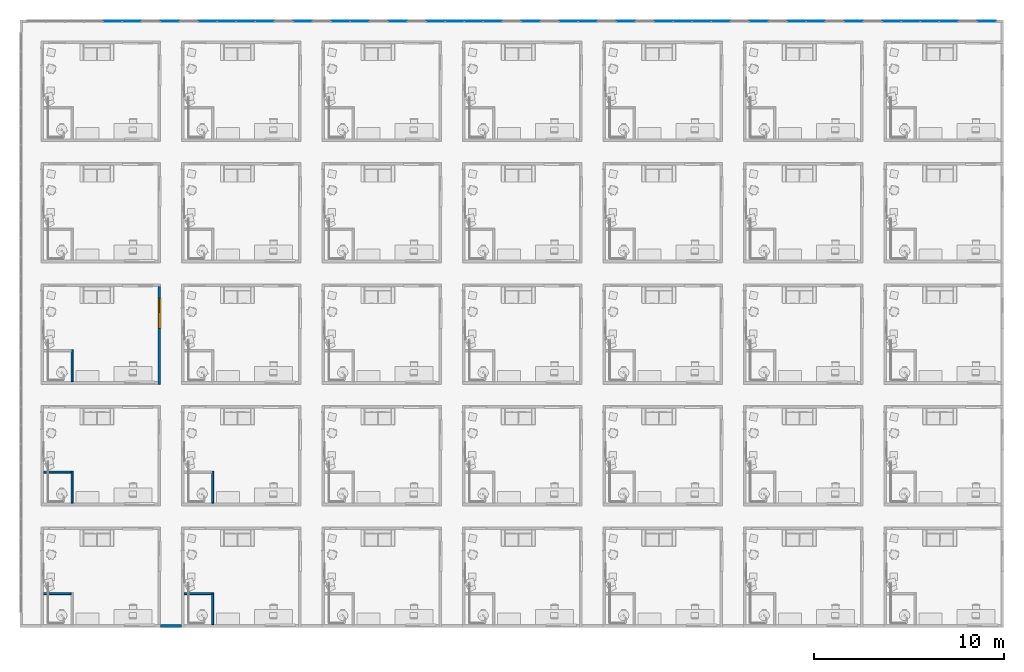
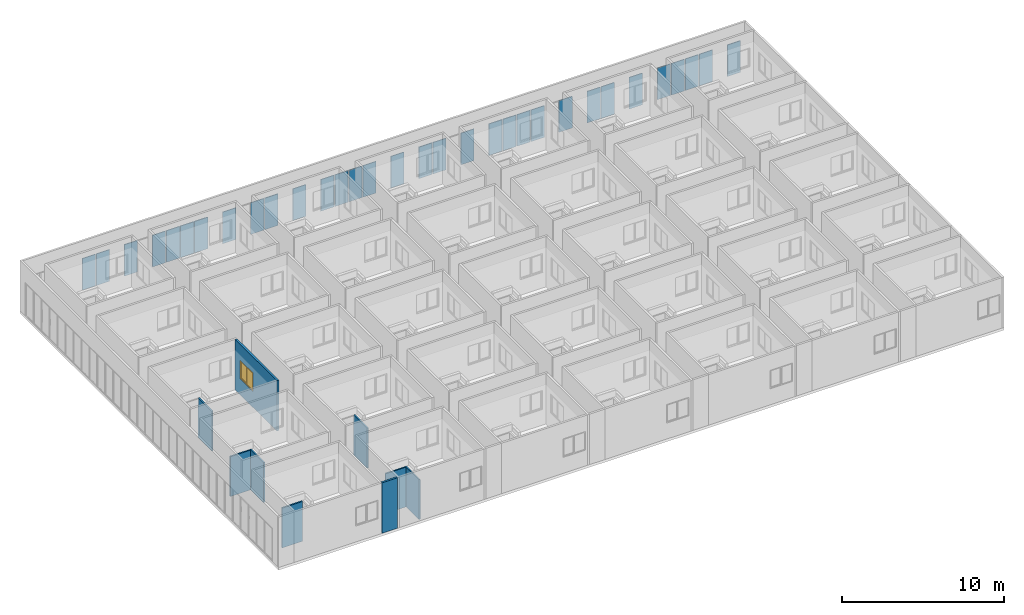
# One storey, part 6 of 72: 32 plates, 9 walls, 1 window, 1 opening, 1 element without a shape of its own.
"""IFC4 building model written with IfcOpenShell, lengths in centimetres."""

from ifc_helpers import new_model, entity, si_unit, converted_unit, derived_unit, direction, frame, origin, place, context, subcontext, project, spatial, indexed_curve, outline, extrude, polygons, source, transform, mapped, material, constituent, constituent_set, type_object, type_shapes, element, fill, aggregate, save


model = new_model("IFC4")

# Units and contexts
model_context = context("Model", 3, precision=0.001, world=origin(), true_north=direction((6.123233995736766e-17, 1.0)))
body_context = subcontext(model_context, "Body", "Model", "MODEL_VIEW")
ifc_project = project(units=[si_unit("LENGTHUNIT", "METRE", prefix="CENTI"), si_unit("AREAUNIT", "SQUARE_METRE"), si_unit("VOLUMEUNIT", "CUBIC_METRE"), derived_unit("THERMALTRANSMITTANCEUNIT", [(si_unit("MASSUNIT", "GRAM", prefix="KILO"), 1), (si_unit("THERMODYNAMICTEMPERATUREUNIT", "KELVIN"), -1), (si_unit("TIMEUNIT", "SECOND"), -3)]), converted_unit("PLANEANGLEUNIT", "DEGREE", entity("IfcPlaneAngleMeasure", 0.017453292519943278), si_unit("PLANEANGLEUNIT", "RADIAN"), dimensions=[0, 0, 0, 0, 0, 0, 0]), derived_unit("MASSDENSITYUNIT", [(si_unit("MASSUNIT", "GRAM", prefix="KILO"), 1), (si_unit("LENGTHUNIT", "METRE"), -3)]), derived_unit("VAPORPERMEABILITYUNIT", [(si_unit("LENGTHUNIT", "METRE"), -1), (si_unit("TIMEUNIT", "SECOND"), 1)]), derived_unit("USERDEFINED", [(si_unit("MASSUNIT", "GRAM", prefix="KILO"), 1), (si_unit("TIMEUNIT", "SECOND"), -3), (si_unit("LENGTHUNIT", "METRE"), 3), (si_unit("ELECTRICCURRENTUNIT", "AMPERE"), -2)]), derived_unit("SPECIFICHEATCAPACITYUNIT", [(si_unit("THERMODYNAMICTEMPERATUREUNIT", "KELVIN"), -1), (si_unit("LENGTHUNIT", "METRE"), 2), (si_unit("TIMEUNIT", "SECOND"), -2)]), derived_unit("THERMALCONDUCTANCEUNIT", [(si_unit("MASSUNIT", "GRAM", prefix="KILO"), 1), (si_unit("THERMODYNAMICTEMPERATUREUNIT", "KELVIN"), -1), (si_unit("TIMEUNIT", "SECOND"), -3), (si_unit("LENGTHUNIT", "METRE"), 1)]), si_unit("PRESSUREUNIT", "PASCAL"), derived_unit("MODULUSOFELASTICITYUNIT", [(si_unit("MASSUNIT", "GRAM", prefix="KILO"), 1), (si_unit("LENGTHUNIT", "METRE"), -1), (si_unit("TIMEUNIT", "SECOND"), -2)]), derived_unit("THERMALEXPANSIONCOEFFICIENTUNIT", [(si_unit("THERMODYNAMICTEMPERATUREUNIT", "KELVIN"), -1)])], contexts=[model_context])

# Site, building, storey
site_placement = place(None, origin())
site = spatial("IfcSite", under=ifc_project, at=site_placement, Name="Default", CompositionType="ELEMENT")
building_placement = place(site_placement, origin())
building = spatial("IfcBuilding", under=site, at=building_placement, Name="IDS Escape Game Building", CompositionType="ELEMENT")
storey_placement = place(building_placement, frame((0.0, 0.0, 800.0)))
storey = spatial("IfcBuildingStorey", under=building, at=storey_placement, Name="02_Second Floor", CompositionType="ELEMENT", Elevation=800.0)

# Curtain wall, plates
curtain_wall_type = type_object("IfcCurtainWallType", Name="Curtain Wall:ARC_31.3_CWA_LIB_bandraam vast 100cm - profiel 60x60_gen_BERSnl", PredefinedType="NOTDEFINED")
curtain_wall_placement = place(storey_placement, frame((0.0, 0.0, -800.0)))
curtain_wall = element("IfcCurtainWall", 1, at=curtain_wall_placement, inside=storey, type_object=curtain_wall_type, Name="Curtain Wall:ARC_31.3_CWA_LIB_bandraam vast 100cm - profiel 60x60_gen_BERSnl", ObjectType="Curtain Wall:ARC_31.3_CWA_LIB_bandraam vast 100cm - profiel 60x60_gen_BERSnl", PredefinedType="NOTDEFINED")
ifc_material_1 = material(Name="ARC_FME.o1_glass_00_gen_BERSnl", Category="o - glas")
plate_type = type_object("IfcPlateType", Name="System Panel:Glazed", PredefinedType="CURTAIN_PANEL", material=ifc_material_1)
shared_shape_1 = source(origin(), body_context, "Body", "SweptSolid", [
    extrude(outline(indexed_curve([(-2.5, -46.92156864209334), (2.5, -46.92156864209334), (2.5, 46.92156864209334), (-2.5, 46.92156864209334), (-2.5, -46.92156864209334)], self_intersect=False)), frame((0.0, 0.0, 0.0), z_axis=(0.0, 0.0, 1.0), x_axis=(0.0, 1.0, 0.0)), (0.0, 0.0, 1.0), 238.00000000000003),
])
type_shapes(plate_type, [shared_shape_1])
plate_1_placement = place(curtain_wall_placement, frame((369.2941176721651, 3182.0, 806.0)))
plate_1 = element("IfcPlate", 2, at=plate_1_placement, type_object=plate_type, material=ifc_material_1, Name="System Panel:Glazed", ObjectType="System Panel:Glazed", PredefinedType="CURTAIN_PANEL", context=body_context, shape_type="MappedRepresentation", body=[
    mapped(shared_shape_1, transform((0.0, 0.0, 0.0), scale=1.0)),
])
plate_2_placement = place(curtain_wall_placement, frame((469.1372549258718, 3182.0, 806.0)))
plate_2 = element("IfcPlate", 3, at=plate_2_placement, type_object=plate_type, material=ifc_material_1, Name="System Panel:Glazed", ObjectType="System Panel:Glazed", PredefinedType="CURTAIN_PANEL", context=body_context, shape_type="MappedRepresentation", body=[
    mapped(shared_shape_1, transform((0.0, 0.0, 0.0), scale=1.0)),
])
plate_3_placement = place(curtain_wall_placement, frame((668.823529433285, 3182.0, 806.0)))
plate_3 = element("IfcPlate", 4, at=plate_3_placement, type_object=plate_type, material=ifc_material_1, Name="System Panel:Glazed", ObjectType="System Panel:Glazed", PredefinedType="CURTAIN_PANEL", context=body_context, shape_type="MappedRepresentation", body=[
    mapped(shared_shape_1, transform((0.0, 0.0, 0.0), scale=1.0)),
])
plate_4_placement = place(curtain_wall_placement, frame((868.5098039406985, 3182.0, 806.0)))
plate_4 = element("IfcPlate", 5, at=plate_4_placement, type_object=plate_type, material=ifc_material_1, Name="System Panel:Glazed", ObjectType="System Panel:Glazed", PredefinedType="CURTAIN_PANEL", context=body_context, shape_type="MappedRepresentation", body=[
    mapped(shared_shape_1, transform((0.0, 0.0, 0.0), scale=1.0)),
])
plate_5_placement = place(curtain_wall_placement, frame((968.3529411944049, 3182.0, 806.0)))
plate_5 = element("IfcPlate", 6, at=plate_5_placement, type_object=plate_type, material=ifc_material_1, Name="System Panel:Glazed", ObjectType="System Panel:Glazed", PredefinedType="CURTAIN_PANEL", context=body_context, shape_type="MappedRepresentation", body=[
    mapped(shared_shape_1, transform((0.0, 0.0, 0.0), scale=1.0)),
])
plate_6_placement = place(curtain_wall_placement, frame((1068.1960784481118, 3182.0, 806.0)))
plate_6 = element("IfcPlate", 7, at=plate_6_placement, type_object=plate_type, material=ifc_material_1, Name="System Panel:Glazed", ObjectType="System Panel:Glazed", PredefinedType="CURTAIN_PANEL", context=body_context, shape_type="MappedRepresentation", body=[
    mapped(shared_shape_1, transform((0.0, 0.0, 0.0), scale=1.0)),
])
plate_7_placement = place(curtain_wall_placement, frame((1168.0392157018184, 3182.0, 806.0)))
plate_7 = element("IfcPlate", 8, at=plate_7_placement, type_object=plate_type, material=ifc_material_1, Name="System Panel:Glazed", ObjectType="System Panel:Glazed", PredefinedType="CURTAIN_PANEL", context=body_context, shape_type="MappedRepresentation", body=[
    mapped(shared_shape_1, transform((0.0, 0.0, 0.0), scale=1.0)),
])
plate_8_placement = place(curtain_wall_placement, frame((1367.725490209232, 3182.0, 806.0)))
plate_8 = element("IfcPlate", 9, at=plate_8_placement, type_object=plate_type, material=ifc_material_1, Name="System Panel:Glazed", ObjectType="System Panel:Glazed", PredefinedType="CURTAIN_PANEL", context=body_context, shape_type="MappedRepresentation", body=[
    mapped(shared_shape_1, transform((0.0, 0.0, 0.0), scale=1.0)),
])
plate_9_placement = place(curtain_wall_placement, frame((1567.4117647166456, 3182.0, 806.0)))
plate_9 = element("IfcPlate", 10, at=plate_9_placement, type_object=plate_type, material=ifc_material_1, Name="System Panel:Glazed", ObjectType="System Panel:Glazed", PredefinedType="CURTAIN_PANEL", context=body_context, shape_type="MappedRepresentation", body=[
    mapped(shared_shape_1, transform((0.0, 0.0, 0.0), scale=1.0)),
])
plate_10_placement = place(curtain_wall_placement, frame((1667.2549019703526, 3182.0, 806.0)))
plate_10 = element("IfcPlate", 11, at=plate_10_placement, type_object=plate_type, material=ifc_material_1, Name="System Panel:Glazed", ObjectType="System Panel:Glazed", PredefinedType="CURTAIN_PANEL", context=body_context, shape_type="MappedRepresentation", body=[
    mapped(shared_shape_1, transform((0.0, 0.0, 0.0), scale=1.0)),
])
plate_11_placement = place(curtain_wall_placement, frame((1866.9411764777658, 3182.0, 806.0)))
plate_11 = element("IfcPlate", 12, at=plate_11_placement, type_object=plate_type, material=ifc_material_1, Name="System Panel:Glazed", ObjectType="System Panel:Glazed", PredefinedType="CURTAIN_PANEL", context=body_context, shape_type="MappedRepresentation", body=[
    mapped(shared_shape_1, transform((0.0, 0.0, 0.0), scale=1.0)),
])
plate_12_placement = place(curtain_wall_placement, frame((2066.627450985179, 3182.0, 806.0)))
plate_12 = element("IfcPlate", 13, at=plate_12_placement, type_object=plate_type, material=ifc_material_1, Name="System Panel:Glazed", ObjectType="System Panel:Glazed", PredefinedType="CURTAIN_PANEL", context=body_context, shape_type="MappedRepresentation", body=[
    mapped(shared_shape_1, transform((0.0, 0.0, 0.0), scale=1.0)),
])
plate_13_placement = place(curtain_wall_placement, frame((2166.4705882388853, 3182.0, 806.0)))
plate_13 = element("IfcPlate", 14, at=plate_13_placement, type_object=plate_type, material=ifc_material_1, Name="System Panel:Glazed", ObjectType="System Panel:Glazed", PredefinedType="CURTAIN_PANEL", context=body_context, shape_type="MappedRepresentation", body=[
    mapped(shared_shape_1, transform((0.0, 0.0, 0.0), scale=1.0)),
])
plate_14_placement = place(curtain_wall_placement, frame((2266.313725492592, 3182.0, 806.0)))
plate_14 = element("IfcPlate", 15, at=plate_14_placement, type_object=plate_type, material=ifc_material_1, Name="System Panel:Glazed", ObjectType="System Panel:Glazed", PredefinedType="CURTAIN_PANEL", context=body_context, shape_type="MappedRepresentation", body=[
    mapped(shared_shape_1, transform((0.0, 0.0, 0.0), scale=1.0)),
])
plate_15_placement = place(curtain_wall_placement, frame((2366.156862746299, 3182.0, 806.0)))
plate_15 = element("IfcPlate", 16, at=plate_15_placement, type_object=plate_type, material=ifc_material_1, Name="System Panel:Glazed", ObjectType="System Panel:Glazed", PredefinedType="CURTAIN_PANEL", context=body_context, shape_type="MappedRepresentation", body=[
    mapped(shared_shape_1, transform((0.0, 0.0, 0.0), scale=1.0)),
])
plate_16_placement = place(curtain_wall_placement, frame((2565.843137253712, 3182.0, 806.0)))
plate_16 = element("IfcPlate", 17, at=plate_16_placement, type_object=plate_type, material=ifc_material_1, Name="System Panel:Glazed", ObjectType="System Panel:Glazed", PredefinedType="CURTAIN_PANEL", context=body_context, shape_type="MappedRepresentation", body=[
    mapped(shared_shape_1, transform((0.0, 0.0, 0.0), scale=1.0)),
])
plate_17_placement = place(curtain_wall_placement, frame((2765.529411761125, 3182.0, 806.0)))
plate_17 = element("IfcPlate", 18, at=plate_17_placement, type_object=plate_type, material=ifc_material_1, Name="System Panel:Glazed", ObjectType="System Panel:Glazed", PredefinedType="CURTAIN_PANEL", context=body_context, shape_type="MappedRepresentation", body=[
    mapped(shared_shape_1, transform((0.0, 0.0, 0.0), scale=1.0)),
])
plate_18_placement = place(curtain_wall_placement, frame((2865.3725490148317, 3182.0, 806.0)))
plate_18 = element("IfcPlate", 19, at=plate_18_placement, type_object=plate_type, material=ifc_material_1, Name="System Panel:Glazed", ObjectType="System Panel:Glazed", PredefinedType="CURTAIN_PANEL", context=body_context, shape_type="MappedRepresentation", body=[
    mapped(shared_shape_1, transform((0.0, 0.0, 0.0), scale=1.0)),
])
plate_19_placement = place(curtain_wall_placement, frame((3065.0588235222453, 3182.0, 806.0)))
plate_19 = element("IfcPlate", 20, at=plate_19_placement, type_object=plate_type, material=ifc_material_1, Name="System Panel:Glazed", ObjectType="System Panel:Glazed", PredefinedType="CURTAIN_PANEL", context=body_context, shape_type="MappedRepresentation", body=[
    mapped(shared_shape_1, transform((0.0, 0.0, 0.0), scale=1.0)),
])
plate_20_placement = place(curtain_wall_placement, frame((3264.745098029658, 3182.0, 806.0)))
plate_20 = element("IfcPlate", 21, at=plate_20_placement, type_object=plate_type, material=ifc_material_1, Name="System Panel:Glazed", ObjectType="System Panel:Glazed", PredefinedType="CURTAIN_PANEL", context=body_context, shape_type="MappedRepresentation", body=[
    mapped(shared_shape_1, transform((0.0, 0.0, 0.0), scale=1.0)),
])
plate_21_placement = place(curtain_wall_placement, frame((3364.588235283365, 3182.0, 806.0)))
plate_21 = element("IfcPlate", 22, at=plate_21_placement, type_object=plate_type, material=ifc_material_1, Name="System Panel:Glazed", ObjectType="System Panel:Glazed", PredefinedType="CURTAIN_PANEL", context=body_context, shape_type="MappedRepresentation", body=[
    mapped(shared_shape_1, transform((0.0, 0.0, 0.0), scale=1.0)),
])
plate_22_placement = place(curtain_wall_placement, frame((3464.431372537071, 3182.0, 806.0)))
plate_22 = element("IfcPlate", 23, at=plate_22_placement, type_object=plate_type, material=ifc_material_1, Name="System Panel:Glazed", ObjectType="System Panel:Glazed", PredefinedType="CURTAIN_PANEL", context=body_context, shape_type="MappedRepresentation", body=[
    mapped(shared_shape_1, transform((0.0, 0.0, 0.0), scale=1.0)),
])
plate_23_placement = place(curtain_wall_placement, frame((3564.2745097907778, 3182.0, 806.0)))
plate_23 = element("IfcPlate", 24, at=plate_23_placement, type_object=plate_type, material=ifc_material_1, Name="System Panel:Glazed", ObjectType="System Panel:Glazed", PredefinedType="CURTAIN_PANEL", context=body_context, shape_type="MappedRepresentation", body=[
    mapped(shared_shape_1, transform((0.0, 0.0, 0.0), scale=1.0)),
])
plate_24_placement = place(curtain_wall_placement, frame((3763.9607842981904, 3182.0, 806.0)))
plate_24 = element("IfcPlate", 25, at=plate_24_placement, type_object=plate_type, material=ifc_material_1, Name="System Panel:Glazed", ObjectType="System Panel:Glazed", PredefinedType="CURTAIN_PANEL", context=body_context, shape_type="MappedRepresentation", body=[
    mapped(shared_shape_1, transform((0.0, 0.0, 0.0), scale=1.0)),
])
plate_25_placement = place(curtain_wall_placement, frame((3963.647058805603, 3182.0, 806.0)))
plate_25 = element("IfcPlate", 26, at=plate_25_placement, type_object=plate_type, material=ifc_material_1, Name="System Panel:Glazed", ObjectType="System Panel:Glazed", PredefinedType="CURTAIN_PANEL", context=body_context, shape_type="MappedRepresentation", body=[
    mapped(shared_shape_1, transform((0.0, 0.0, 0.0), scale=1.0)),
])
plate_26_placement = place(curtain_wall_placement, frame((4063.4901960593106, 3182.0, 806.0)))
plate_26 = element("IfcPlate", 27, at=plate_26_placement, type_object=plate_type, material=ifc_material_1, Name="System Panel:Glazed", ObjectType="System Panel:Glazed", PredefinedType="CURTAIN_PANEL", context=body_context, shape_type="MappedRepresentation", body=[
    mapped(shared_shape_1, transform((0.0, 0.0, 0.0), scale=1.0)),
])
plate_27_placement = place(curtain_wall_placement, frame((4263.176470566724, 3182.0, 806.0)))
plate_27 = element("IfcPlate", 28, at=plate_27_placement, type_object=plate_type, material=ifc_material_1, Name="System Panel:Glazed", ObjectType="System Panel:Glazed", PredefinedType="CURTAIN_PANEL", context=body_context, shape_type="MappedRepresentation", body=[
    mapped(shared_shape_1, transform((0.0, 0.0, 0.0), scale=1.0)),
])
plate_28_placement = place(curtain_wall_placement, frame((4462.862745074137, 3182.0, 806.0)))
plate_28 = element("IfcPlate", 29, at=plate_28_placement, type_object=plate_type, material=ifc_material_1, Name="System Panel:Glazed", ObjectType="System Panel:Glazed", PredefinedType="CURTAIN_PANEL", context=body_context, shape_type="MappedRepresentation", body=[
    mapped(shared_shape_1, transform((0.0, 0.0, 0.0), scale=1.0)),
])
plate_29_placement = place(curtain_wall_placement, frame((4562.705882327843, 3182.0, 806.0)))
plate_29 = element("IfcPlate", 30, at=plate_29_placement, type_object=plate_type, material=ifc_material_1, Name="System Panel:Glazed", ObjectType="System Panel:Glazed", PredefinedType="CURTAIN_PANEL", context=body_context, shape_type="MappedRepresentation", body=[
    mapped(shared_shape_1, transform((0.0, 0.0, 0.0), scale=1.0)),
])
plate_30_placement = place(curtain_wall_placement, frame((4662.54901958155, 3182.0, 806.0)))
plate_30 = element("IfcPlate", 31, at=plate_30_placement, type_object=plate_type, material=ifc_material_1, Name="System Panel:Glazed", ObjectType="System Panel:Glazed", PredefinedType="CURTAIN_PANEL", context=body_context, shape_type="MappedRepresentation", body=[
    mapped(shared_shape_1, transform((0.0, 0.0, 0.0), scale=1.0)),
])
plate_31_placement = place(curtain_wall_placement, frame((4762.392156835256, 3182.0, 806.0)))
plate_31 = element("IfcPlate", 32, at=plate_31_placement, type_object=plate_type, material=ifc_material_1, Name="System Panel:Glazed", ObjectType="System Panel:Glazed", PredefinedType="CURTAIN_PANEL", context=body_context, shape_type="MappedRepresentation", body=[
    mapped(shared_shape_1, transform((0.0, 0.0, 0.0), scale=1.0)),
])
plate_32_placement = place(curtain_wall_placement, frame((4962.078431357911, 3182.0, 806.0)))
plate_32 = element("IfcPlate", 33, at=plate_32_placement, type_object=plate_type, material=ifc_material_1, Name="System Panel:Glazed", ObjectType="System Panel:Glazed", PredefinedType="CURTAIN_PANEL", context=body_context, shape_type="MappedRepresentation", body=[
    mapped(shared_shape_1, transform((0.0, 0.0, 0.0), scale=1.0)),
])
aggregate(curtain_wall, [plate_1, plate_2, plate_3, plate_4, plate_5, plate_6, plate_7, plate_8, plate_9, plate_10, plate_11, plate_12, plate_13, plate_14, plate_15, plate_16, plate_17, plate_18, plate_19, plate_20, plate_21, plate_22, plate_23, plate_24, plate_25, plate_26, plate_27, plate_28, plate_29, plate_30, plate_31, plate_32])

# Wall, opening, window
ifc_material_2 = material(Name="ARC_FME.g2_Fg2 Masonry_00_gen_BERSnl", Category="g - klei")
wall_type_1 = type_object("IfcWallType", Name="Basic Wall:ARC_22.10_WA_LB_SB14_gen_BERSnl", PredefinedType="STANDARD")
wall_1_placement = place(storey_placement, frame((614.0, 1275.0, 0.0), z_axis=(0.0, 0.0, 1.0), x_axis=(0.0, 1.0, 0.0)))
wall_1 = element("IfcWall", 34, at=wall_1_placement, inside=storey, type_object=wall_type_1, material=ifc_material_2, Name="Basic Wall:ARC_22.10_WA_LB_SB14_gen_BERSnl", ObjectType="Basic Wall:ARC_22.10_WA_LB_SB14_gen_BERSnl", PredefinedType="NOTDEFINED", context=body_context, shape_type="Tessellation", body=[
    polygons([(0.0, -6.9999999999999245, -1.0828671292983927e-13), (514.0000000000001, -6.9999999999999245, -1.0828671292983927e-13), (514.0000000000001, -6.9999999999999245, 379.9999999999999), (0.0, -6.9999999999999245, 379.9999999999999), (454.0000000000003, -6.999999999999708, 260.00000000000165), (454.0000000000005, -6.9999999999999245, 119.9999999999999), (294.0000000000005, -7.000000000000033, 119.9999999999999), (294.0000000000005, -6.999999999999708, 260.00000000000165), (454.0000000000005, 7.000000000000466, 119.9999999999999), (454.0000000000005, 7.000000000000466, 260.0000000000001), (294.0000000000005, 7.000000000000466, 260.0000000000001), (294.0000000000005, 7.000000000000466, 119.9999999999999), (0.0, 7.000000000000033, -1.0828671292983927e-13), (0.0, 7.000000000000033, 379.9999999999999), (14.000000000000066, 7.000000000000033, 379.9999999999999), (514.0000000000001, 7.000000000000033, 379.9999999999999), (514.0000000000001, 7.000000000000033, -1.0828671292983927e-13), (14.000000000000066, 7.000000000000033, -1.0828671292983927e-13)], [[[1, 2, 3, 4], [5, 6, 7, 8]], [[13, 14, 15, 16, 17, 18], [9, 10, 11, 12]], [[2, 1, 13, 18, 17]], [[4, 3, 16, 15, 14]], [[10, 9, 6, 5]], [[7, 12, 11, 8]], [[10, 5, 8, 11]], [[12, 7, 6, 9]], [[1, 4, 14, 13]], [[3, 2, 17, 16]]], closed=True),
])
opening_placement = place(wall_1_placement, frame((-1275.0, 614.0, 120.0), z_axis=(0.0, 0.0, 1.0), x_axis=(0.0, -1.0, 0.0)))
opening = element("IfcOpeningElement", 35, at=opening_placement, cuts=wall_1, Name="Basic Wall:ARC_22.10_WA_LB_SB14_gen_BERSnl", PredefinedType="OPENING", context=body_context, shape_type="Tessellation", body=[
    polygons([(607.0, 1729.0000000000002, 0.0), (607.0, 1729.0000000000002, -0.9999999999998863), (602.0, 1729.0000000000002, -0.9999999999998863), (602.0, 1729.0000000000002, 0.0), (606.9999999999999, 1569.0000000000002, 0.0), (601.9999999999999, 1569.0000000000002, 0.0), (601.9999999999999, 1569.0000000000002, -0.9999999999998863), (606.9999999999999, 1569.0000000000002, -0.9999999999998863), (606.9999999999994, 1724.0000000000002, 1.1368683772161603e-13), (606.9999999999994, 1574.0000000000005, 1.1368683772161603e-13), (601.9999999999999, 1574.0000000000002, 0.0), (601.9999999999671, 1574.0000000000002, 134.99999999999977), (601.9999999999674, 1724.0000000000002, 134.99999999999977), (601.9999999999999, 1724.0000000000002, 0.0), (626.0368251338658, 1729.0000000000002, 0.0), (606.9999999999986, 1729.0000000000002, 1.1368683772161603e-13), (606.9999999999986, 1729.0000000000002, 140.0000000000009), (626.0368251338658, 1729.0000000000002, 140.00000000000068), (626.0368251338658, 1569.0000000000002, 140.00000000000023), (606.9999999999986, 1569.0000000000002, 140.00000000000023), (606.9999999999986, 1569.0000000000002, 0.0), (626.0368251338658, 1569.0000000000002, 1.1368683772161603e-13), (606.9999999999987, 1724.0000000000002, 134.99999999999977), (606.9999999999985, 1574.0000000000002, 134.99999999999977)], [[[1, 2, 3, 4]], [[5, 6, 7, 8]], [[1, 9, 10, 5, 8, 2]], [[2, 8, 7, 3]], [[3, 7, 6, 11, 12, 13, 14, 4]], [[4, 14, 9, 1]], [[15, 16, 17, 18]], [[19, 20, 21, 22]], [[18, 17, 20, 19]], [[18, 19, 22, 15]], [[17, 16, 9, 23, 24, 10, 21, 20]], [[22, 21, 10, 9, 16, 15]], [[11, 10, 24, 12]], [[13, 23, 9, 14]], [[12, 24, 23, 13]], [[5, 10, 11, 6]]], closed=True),
])
ifc_material_3 = material(Name="<Unnamed>")
ifc_constituent_1 = constituent(ifc_material_3, Name="<Unnamed>", fraction=0.0)
ifc_constituent_2 = constituent(ifc_material_1, Name="ARC_FME.o1_glass_00_gen_BERSnl", Category="o - glas", fraction=1.0)
ifc_constituent_set_1 = constituent_set(constituents=[ifc_constituent_1, ifc_constituent_2])
ifc_constituent_3 = constituent(ifc_material_3, Name="BE Tablet", fraction=0.0)
ifc_constituent_4 = constituent(ifc_material_3, Name="Frame/Mullion", fraction=0.0)
ifc_constituent_5 = constituent(ifc_material_1, Name="Glass", Category="o - glas", fraction=1.0)
ifc_constituent_set_2 = constituent_set(constituents=[ifc_constituent_3, ifc_constituent_4, ifc_constituent_5])
window_type = type_object("IfcWindowType", Name="ARC_31_WI_WB_Dubbel Raam-Recht-Vast en Draaiend_gen_BERSnl:Links-Draaiend / Rechts-Draaiend", PartitioningType="NOTDEFINED", PredefinedType="WINDOW", material=ifc_constituent_set_2)
shared_shape_2 = source(origin(), body_context, "Body", "Tessellation", [
    extrude(outline(indexed_curve([(-80.00000000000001, -4.999999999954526), (80.00000000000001, -4.999999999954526), (80.00000000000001, 4.999999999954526), (-80.00000000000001, 4.999999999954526), (-80.00000000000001, -4.999999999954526)], self_intersect=False)), frame((80.0, 7.036825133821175, 1.0), z_axis=(0.0, 0.0, 1.0), x_axis=(-1.0, 0.0, 0.0)), (0.0, 0.0, 1.0), 2.000000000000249),
    extrude(outline(indexed_curve([(-2.9999999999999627, -3.000000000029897), (-7.656209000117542e-14, -3.000000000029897), (-7.064016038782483e-14, 5.979964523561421e-11), (3.0000000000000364, 5.978991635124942e-11), (3.0000000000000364, 2.9999999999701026), (-2.9999999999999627, 2.9999999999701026), (-2.9999999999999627, -3.000000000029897)], self_intersect=False)), frame((80.0, 15.03682513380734, 7.0)), (0.0, 0.0, 1.0), 128.00000000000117),
    extrude(outline(indexed_curve([(-35.499999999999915, -1.2000000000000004), (35.499999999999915, -1.2000000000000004), (35.49999999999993, 1.2), (-35.499999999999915, 1.2), (-35.499999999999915, -1.2000000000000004)], self_intersect=False)), frame((41.50000000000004, 15.036825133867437, 7.0), z_axis=(0.0, 0.0, 1.0), x_axis=(-1.0, 0.0, 0.0)), (0.0, 0.0, 1.0), 128.000000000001),
    extrude(outline(indexed_curve([(-67.00000000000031, -38.500000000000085), (67.00000000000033, -38.5000000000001), (67.00000000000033, 38.50000000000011), (-67.00000000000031, 38.50000000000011), (-67.00000000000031, -38.500000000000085)], self_intersect=False), holes=[indexed_curve([(61.00000000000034, -32.50000000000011), (-61.00000000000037, -32.500000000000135), (-61.00000000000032, 32.50000000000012), (61.00000000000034, 32.50000000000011), (61.00000000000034, -32.50000000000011)], self_intersect=False)]), frame((118.5, 9.03682513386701, 71.0), z_axis=(0.0, 1.0, 0.0), x_axis=(0.0, 0.0, -1.0)), (0.0, 0.0, 1.0), 6.0),
    extrude(outline(indexed_curve([(-32.500000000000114, -1.2000000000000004), (32.500000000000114, -1.2000000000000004), (32.500000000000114, 1.2000000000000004), (-32.500000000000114, 1.2000000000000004), (-32.500000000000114, -1.2000000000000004)], self_intersect=False)), frame((118.5, 12.036825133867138, 10.0), z_axis=(0.0, 0.0, 1.0), x_axis=(-1.0, 0.0, 0.0)), (0.0, 0.0, 1.0), 122.00000000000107),
    polygons([(160.00000000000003, 18.03682513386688, 141.00000000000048), (160.00000000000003, 18.03682513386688, 1.0000000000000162), (4.0607517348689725e-14, 18.036825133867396, 1.0000000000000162), (4.0607517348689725e-14, 18.036825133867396, 141.00000000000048), (6.000000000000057, 18.03682513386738, 135.00000000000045), (6.000000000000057, 18.03682513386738, 7.000000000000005), (76.99999999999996, 18.03682513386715, 7.000000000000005), (154.00000000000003, 18.0368251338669, 7.000000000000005), (154.00000000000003, 18.0368251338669, 135.00000000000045), (76.99999999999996, 18.03682513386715, 135.00000000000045), (160.0, 12.03682513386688, 141.00000000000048), (160.0, 12.03682513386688, 1.0000000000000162), (2.7071678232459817e-14, 12.036825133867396, 1.0000000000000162), (2.7071678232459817e-14, 12.036825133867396, 141.00000000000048), (6.000000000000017, 12.036825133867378, 135.00000000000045), (6.000000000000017, 12.036825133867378, 7.000000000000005), (76.99999999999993, 12.036825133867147, 7.000000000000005), (79.99999999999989, 12.036825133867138, 7.000000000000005), (79.9999999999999, 15.036825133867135, 7.000000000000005), (154.00000000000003, 15.0368251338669, 7.000000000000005), (154.00000000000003, 15.036825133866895, 135.00000000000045), (76.99999999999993, 12.036825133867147, 135.00000000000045), (79.99999999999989, 12.036825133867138, 135.00000000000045), (79.99999999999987, 12.036825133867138, 138.00000000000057), (157.00000000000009, 12.036825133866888, 138.00000000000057), (157.00000000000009, 12.036825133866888, 3.9999999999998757), (79.99999999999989, 12.036825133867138, 3.9999999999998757), (157.0000000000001, 15.036825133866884, 3.9999999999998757), (157.0000000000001, 15.036825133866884, 138.00000000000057), (79.99999999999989, 15.036825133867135, 3.9999999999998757), (79.99999999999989, 15.036825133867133, 138.00000000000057), (79.99999999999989, 15.036825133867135, 135.00000000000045)], [[[1, 2, 3, 4], [5, 6, 7, 8, 9, 10]], [[2, 1, 11, 12]], [[3, 2, 12, 13]], [[4, 3, 13, 14]], [[6, 5, 15, 16]], [[6, 16, 17, 18, 19, 20, 8, 7]], [[9, 8, 20, 21]], [[11, 14, 13, 12], [16, 15, 22, 23, 24, 25, 26, 27, 18, 17]], [[28, 26, 25, 29]], [[30, 27, 26, 28]], [[31, 24, 23, 32]], [[30, 28, 29, 31, 32, 21, 20, 19]], [[1, 4, 14, 11]], [[15, 5, 10, 9, 21, 32, 23, 22]], [[24, 31, 29, 25]], [[27, 30, 19, 18]]], closed=True),
])
type_shapes(window_type, [shared_shape_2])
window_placement = place(opening_placement, frame((626.0368251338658, 1569.0, -1.0), z_axis=(0.0, 0.0, 1.0), x_axis=(0.0, 1.0, 0.0)))
window = element("IfcWindow", 36, at=window_placement, inside=storey, type_object=window_type, material=ifc_constituent_set_1, Name="ARC_31_WI_WB_Dubbel Raam-Recht-Vast en Draaiend_gen_BERSnl:Links-Draaiend / Rechts-Draaiend", ObjectType="ARC_31_WI_WB_Dubbel Raam-Recht-Vast en Draaiend_gen_BERSnl:Links-Draaiend / Rechts-Draaiend", OverallHeight=140.00000000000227, OverallWidth=160.0000000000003, PartitioningType="NOTDEFINED", PredefinedType="WINDOW", context=body_context, shape_type="MappedRepresentation", body=[
    mapped(shared_shape_2, transform((0.0, 0.0, 0.0), scale=1.0)),
])
fill(opening, window)

# Walls
wall_2_placement = place(storey_placement, frame((731.0, 6.0, 0.0), z_axis=(0.0, 0.0, 1.0), x_axis=(-1.0, 0.0, 0.0)))
element("IfcWall", 37, at=wall_2_placement, inside=storey, type_object=wall_type_1, material=ifc_material_2, Name="Basic Wall:ARC_22.10_WA_LB_SB14_gen_BERSnl", ObjectType="Basic Wall:ARC_22.10_WA_LB_SB14_gen_BERSnl", PredefinedType="NOTDEFINED", context=body_context, shape_type="SweptSolid", body=[
    extrude(outline(indexed_curve([(110.0000000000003, 7.000000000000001), (-2.2611003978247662e-14, 7.0), (2.2611003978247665e-14, -7.000000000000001), (110.00000000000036, -7.000000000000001), (110.0000000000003, 7.000000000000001)], self_intersect=False)), origin(), (0.0, 0.0, 1.0), 380.0000000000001),
])
ifc_material_4 = material(Name="ARC_FME.r2_Plaster_white_gen_BERSnl", Category="r - klei, gips, magnesium en kunststof bindmiddelen")
wall_type_2 = type_object("IfcWallType", Name="Basic Wall:ARC_22.10_WA_LB_GPS10_gen_BERSnl", PredefinedType="STANDARD")
wall_3_placement = place(storey_placement, frame((152.0, 176.0, 0.0), z_axis=(0.0, 0.0, 1.0), x_axis=(-1.0, 0.0, 0.0)))
element("IfcWall", 38, at=wall_3_placement, inside=storey, type_object=wall_type_2, material=ifc_material_4, Name="Basic Wall:ARC_22.10_WA_LB_GPS10_gen_BERSnl", ObjectType="Basic Wall:ARC_22.10_WA_LB_GPS10_gen_BERSnl", PredefinedType="NOTDEFINED", context=body_context, shape_type="SweptSolid", body=[
    extrude(outline(indexed_curve([(145.00000000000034, 5.000000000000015), (1.0690726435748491e-14, 5.0), (-1.0690726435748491e-14, -5.0), (145.00000000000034, -4.999999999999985), (145.00000000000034, 5.000000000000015)], self_intersect=False)), origin(), (0.0, 0.0, 1.0), 300.0),
])
wall_4_placement = place(storey_placement, frame((895.0, 13.0, 0.0), z_axis=(0.0, 0.0, 1.0), x_axis=(0.0, 1.0, 0.0)))
element("IfcWall", 39, at=wall_4_placement, inside=storey, type_object=wall_type_2, material=ifc_material_4, Name="Basic Wall:ARC_22.10_WA_LB_GPS10_gen_BERSnl", ObjectType="Basic Wall:ARC_22.10_WA_LB_GPS10_gen_BERSnl", PredefinedType="NOTDEFINED", context=body_context, shape_type="SweptSolid", body=[
    extrude(outline(indexed_curve([(168.00000000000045, 4.999999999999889), (-1.1881077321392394e-15, 4.999999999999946), (-5.038721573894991e-16, -4.999999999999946), (168.00000000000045, -5.0000000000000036), (168.00000000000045, 4.999999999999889)], self_intersect=False)), origin(), (0.0, 0.0, 1.0), 300.0),
])
wall_5_placement = place(storey_placement, frame((890.0, 176.0, 0.0), z_axis=(0.0, 0.0, 1.0), x_axis=(-1.0, 0.0, 0.0)))
element("IfcWall", 40, at=wall_5_placement, inside=storey, type_object=wall_type_2, material=ifc_material_4, Name="Basic Wall:ARC_22.10_WA_LB_GPS10_gen_BERSnl", ObjectType="Basic Wall:ARC_22.10_WA_LB_GPS10_gen_BERSnl", PredefinedType="NOTDEFINED", context=body_context, shape_type="SweptSolid", body=[
    extrude(outline(indexed_curve([(145.00000000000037, 5.000000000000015), (-1.6380951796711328e-14, 5.0), (1.6380951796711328e-14, -5.0), (145.00000000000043, -4.999999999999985), (145.00000000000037, 5.000000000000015)], self_intersect=False)), origin(), (0.0, 0.0, 1.0), 300.0),
])
wall_6_placement = place(storey_placement, frame((157.0, 651.0, 0.0), z_axis=(0.0, 0.0, 1.0), x_axis=(0.0, 1.0, 0.0)))
element("IfcWall", 41, at=wall_6_placement, inside=storey, type_object=wall_type_2, material=ifc_material_4, Name="Basic Wall:ARC_22.10_WA_LB_GPS10_gen_BERSnl", ObjectType="Basic Wall:ARC_22.10_WA_LB_GPS10_gen_BERSnl", PredefinedType="NOTDEFINED", context=body_context, shape_type="SweptSolid", body=[
    extrude(outline(indexed_curve([(168.00000000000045, 4.9999999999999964), (-7.956027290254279e-15, 5.0), (7.956027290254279e-15, -5.0), (168.00000000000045, -5.0000000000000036), (168.00000000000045, 4.9999999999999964)], self_intersect=False)), origin(), (0.0, 0.0, 1.0), 300.0),
])
wall_7_placement = place(storey_placement, frame((152.0, 814.0, 0.0), z_axis=(0.0, 0.0, 1.0), x_axis=(-1.0, 0.0, 0.0)))
element("IfcWall", 42, at=wall_7_placement, inside=storey, type_object=wall_type_2, material=ifc_material_4, Name="Basic Wall:ARC_22.10_WA_LB_GPS10_gen_BERSnl", ObjectType="Basic Wall:ARC_22.10_WA_LB_GPS10_gen_BERSnl", PredefinedType="NOTDEFINED", context=body_context, shape_type="SweptSolid", body=[
    extrude(outline(indexed_curve([(145.00000000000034, 4.99999999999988), (1.0690726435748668e-14, 4.999999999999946), (-1.0690726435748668e-14, -4.999999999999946), (145.00000000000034, -5.000000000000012), (145.00000000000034, 4.99999999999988)], self_intersect=False)), origin(), (0.0, 0.0, 1.0), 300.0),
])
wall_8_placement = place(storey_placement, frame((895.0, 651.0, 0.0), z_axis=(0.0, 0.0, 1.0), x_axis=(0.0, 1.0, 0.0)))
element("IfcWall", 43, at=wall_8_placement, inside=storey, type_object=wall_type_2, material=ifc_material_4, Name="Basic Wall:ARC_22.10_WA_LB_GPS10_gen_BERSnl", ObjectType="Basic Wall:ARC_22.10_WA_LB_GPS10_gen_BERSnl", PredefinedType="NOTDEFINED", context=body_context, shape_type="SweptSolid", body=[
    extrude(outline(indexed_curve([(168.00000000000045, 4.999999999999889), (-7.956027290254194e-15, 4.999999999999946), (7.956027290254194e-15, -4.999999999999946), (168.00000000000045, -5.0000000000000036), (168.00000000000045, 4.999999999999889)], self_intersect=False)), origin(), (0.0, 0.0, 1.0), 300.0),
])
wall_9_placement = place(storey_placement, frame((157.0, 1289.0, 0.0), z_axis=(0.0, 0.0, 1.0), x_axis=(0.0, 1.0, 0.0)))
element("IfcWall", 44, at=wall_9_placement, inside=storey, type_object=wall_type_2, material=ifc_material_4, Name="Basic Wall:ARC_22.10_WA_LB_GPS10_gen_BERSnl", ObjectType="Basic Wall:ARC_22.10_WA_LB_GPS10_gen_BERSnl", PredefinedType="NOTDEFINED", context=body_context, shape_type="SweptSolid", body=[
    extrude(outline(indexed_curve([(168.0000000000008, 4.9999999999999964), (-7.956027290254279e-15, 5.0), (7.956027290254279e-15, -5.0), (168.0000000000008, -5.0000000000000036), (168.0000000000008, 4.9999999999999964)], self_intersect=False)), origin(), (0.0, 0.0, 1.0), 300.0),
])

save(model, "model.ifc")
